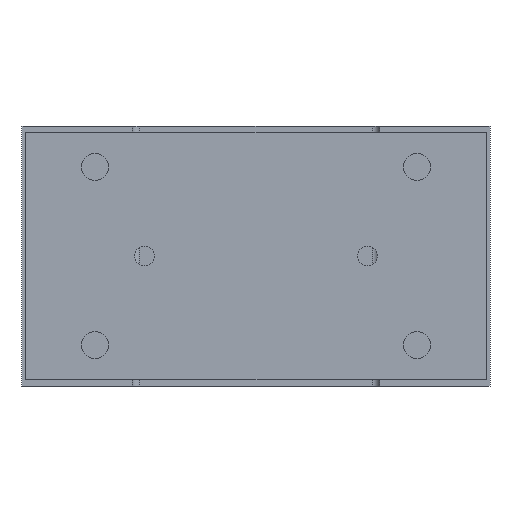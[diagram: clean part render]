
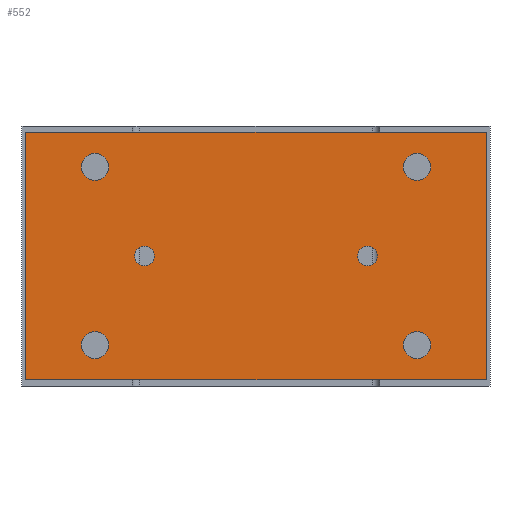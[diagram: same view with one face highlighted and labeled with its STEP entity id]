
A CAD part, left-side view. The second image highlights one B-rep face of the part: STEP entity #552.
In plain terms, the highlighted planar face has unit normal (-1, 0, 0).
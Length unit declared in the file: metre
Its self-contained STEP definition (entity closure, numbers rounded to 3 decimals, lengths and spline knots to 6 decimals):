
#552 = ADVANCED_FACE( '', ( #1253, #1254, #1255, #1256, #1257, #1258, #1259 ), #1260, .T. );
#1253 = FACE_BOUND( '', #2057, .T. );
#1254 = FACE_BOUND( '', #2058, .T. );
#1255 = FACE_BOUND( '', #2059, .T. );
#1256 = FACE_BOUND( '', #2060, .T. );
#1257 = FACE_BOUND( '', #2061, .T. );
#1258 = FACE_BOUND( '', #2062, .T. );
#1259 = FACE_OUTER_BOUND( '', #2063, .T. );
#1260 = PLANE( '', #2064 );
#2057 = EDGE_LOOP( '', ( #3410 ) );
#2058 = EDGE_LOOP( '', ( #3411 ) );
#2059 = EDGE_LOOP( '', ( #3412 ) );
#2060 = EDGE_LOOP( '', ( #3413 ) );
#2061 = EDGE_LOOP( '', ( #3414 ) );
#2062 = EDGE_LOOP( '', ( #3415 ) );
#2063 = EDGE_LOOP( '', ( #3416, #3417, #3418, #3419 ) );
#2064 = AXIS2_PLACEMENT_3D( '', #3420, #3421, #3422 );
#3410 = ORIENTED_EDGE( '', *, *, #4115, .F. );
#3411 = ORIENTED_EDGE( '', *, *, #4285, .F. );
#3412 = ORIENTED_EDGE( '', *, *, #4268, .F. );
#3413 = ORIENTED_EDGE( '', *, *, #4166, .F. );
#3414 = ORIENTED_EDGE( '', *, *, #4286, .F. );
#3415 = ORIENTED_EDGE( '', *, *, #4287, .T. );
#3416 = ORIENTED_EDGE( '', *, *, #4199, .T. );
#3417 = ORIENTED_EDGE( '', *, *, #4223, .T. );
#3418 = ORIENTED_EDGE( '', *, *, #4257, .T. );
#3419 = ORIENTED_EDGE( '', *, *, #3941, .T. );
#3420 = CARTESIAN_POINT( '', ( -0.135, 0.093, -0.1025 ) );
#3421 = DIRECTION( '', ( -1., 0., 0. ) );
#3422 = DIRECTION( '', ( 0., 0., -1. ) );
#3941 = EDGE_CURVE( '', #4597, #4595, #4598, .T. );
#4115 = EDGE_CURVE( '', #4865, #4865, #4866, .T. );
#4166 = EDGE_CURVE( '', #4938, #4938, #4939, .T. );
#4199 = EDGE_CURVE( '', #4595, #4982, #4984, .T. );
#4223 = EDGE_CURVE( '', #4982, #5017, #5019, .T. );
#4257 = EDGE_CURVE( '', #5017, #4597, #5064, .T. );
#4268 = EDGE_CURVE( '', #5076, #5076, #5077, .T. );
#4285 = EDGE_CURVE( '', #5096, #5096, #5097, .T. );
#4286 = EDGE_CURVE( '', #5098, #5098, #5099, .T. );
#4287 = EDGE_CURVE( '', #5100, #5100, #5101, .T. );
#4595 = VERTEX_POINT( '', #5524 );
#4597 = VERTEX_POINT( '', #5527 );
#4598 = LINE( '', #5528, #5529 );
#4865 = VERTEX_POINT( '', #5995 );
#4866 = CIRCLE( '', #5996, 0.0055 );
#4938 = VERTEX_POINT( '', #6117 );
#4939 = CIRCLE( '', #6118, 0.0055 );
#4982 = VERTEX_POINT( '', #6179 );
#4984 = LINE( '', #6182, #6183 );
#5017 = VERTEX_POINT( '', #6254 );
#5019 = LINE( '', #6257, #6258 );
#5064 = LINE( '', #6309, #6310 );
#5076 = VERTEX_POINT( '', #6327 );
#5077 = CIRCLE( '', #6328, 0.0055 );
#5096 = VERTEX_POINT( '', #6349 );
#5097 = CIRCLE( '', #6350, 0.0055 );
#5098 = VERTEX_POINT( '', #6351 );
#5099 = CIRCLE( '', #6352, 0.004 );
#5100 = VERTEX_POINT( '', #6353 );
#5101 = CIRCLE( '', #6354, 0.004 );
#5524 = CARTESIAN_POINT( '', ( -0.135, 0.093, -0.0025 ) );
#5527 = CARTESIAN_POINT( '', ( -0.135, -0.093, -0.0025 ) );
#5528 = CARTESIAN_POINT( '', ( -0.135, -0.093, -0.0025 ) );
#5529 = VECTOR( '', #6656, 1. );
#5995 = CARTESIAN_POINT( '', ( -0.135, 0.0595, -0.0165 ) );
#5996 = AXIS2_PLACEMENT_3D( '', #6865, #6866, #6867 );
#6117 = CARTESIAN_POINT( '', ( -0.135, -0.0705, -0.0885 ) );
#6118 = AXIS2_PLACEMENT_3D( '', #6923, #6924, #6925 );
#6179 = CARTESIAN_POINT( '', ( -0.135, 0.093, -0.1025 ) );
#6182 = CARTESIAN_POINT( '', ( -0.135, 0.093, -0.0025 ) );
#6183 = VECTOR( '', #6948, 1. );
#6254 = CARTESIAN_POINT( '', ( -0.135, -0.093, -0.1025 ) );
#6257 = CARTESIAN_POINT( '', ( -0.135, 0.093, -0.1025 ) );
#6258 = VECTOR( '', #6973, 1. );
#6309 = CARTESIAN_POINT( '', ( -0.135, -0.093, -0.1025 ) );
#6310 = VECTOR( '', #7013, 1. );
#6327 = CARTESIAN_POINT( '', ( -0.135, 0.0595, -0.0885 ) );
#6328 = AXIS2_PLACEMENT_3D( '', #7019, #7020, #7021 );
#6349 = CARTESIAN_POINT( '', ( -0.135, -0.0705, -0.0165 ) );
#6350 = AXIS2_PLACEMENT_3D( '', #7033, #7034, #7035 );
#6351 = CARTESIAN_POINT( '', ( -0.135, 0.041, -0.0525 ) );
#6352 = AXIS2_PLACEMENT_3D( '', #7036, #7037, #7038 );
#6353 = CARTESIAN_POINT( '', ( -0.135, -0.041, -0.0525 ) );
#6354 = AXIS2_PLACEMENT_3D( '', #7039, #7040, #7041 );
#6656 = DIRECTION( '', ( 0., 1., 0. ) );
#6865 = CARTESIAN_POINT( '', ( -0.135, 0.065, -0.0165 ) );
#6866 = DIRECTION( '', ( -1., 0., 0. ) );
#6867 = DIRECTION( '', ( 0., -1., 0. ) );
#6923 = CARTESIAN_POINT( '', ( -0.135, -0.065, -0.0885 ) );
#6924 = DIRECTION( '', ( -1., 0., 0. ) );
#6925 = DIRECTION( '', ( 0., -1., 0. ) );
#6948 = DIRECTION( '', ( 0., 0., -1. ) );
#6973 = DIRECTION( '', ( 0., -1., 0. ) );
#7013 = DIRECTION( '', ( 0., 0., 1. ) );
#7019 = CARTESIAN_POINT( '', ( -0.135, 0.065, -0.0885 ) );
#7020 = DIRECTION( '', ( -1., 0., 0. ) );
#7021 = DIRECTION( '', ( 0., -1., 0. ) );
#7033 = CARTESIAN_POINT( '', ( -0.135, -0.065, -0.0165 ) );
#7034 = DIRECTION( '', ( -1., 0., 0. ) );
#7035 = DIRECTION( '', ( 0., -1., 0. ) );
#7036 = CARTESIAN_POINT( '', ( -0.135, 0.045, -0.0525 ) );
#7037 = DIRECTION( '', ( -1., 0., 0. ) );
#7038 = DIRECTION( '', ( 0., -1., 0. ) );
#7039 = CARTESIAN_POINT( '', ( -0.135, -0.045, -0.0525 ) );
#7040 = DIRECTION( '', ( 1., 0., 0. ) );
#7041 = DIRECTION( '', ( 0., 1., 0. ) );
